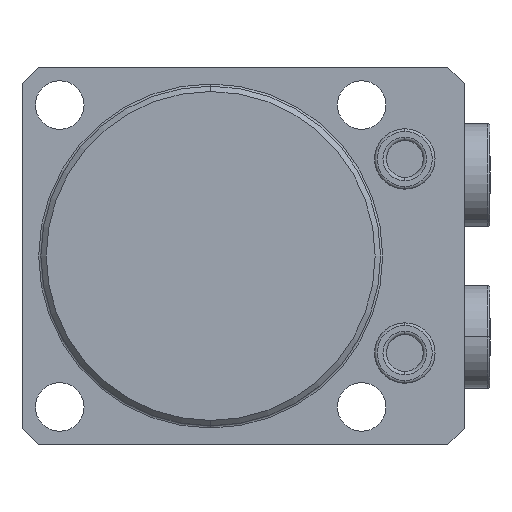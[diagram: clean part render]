
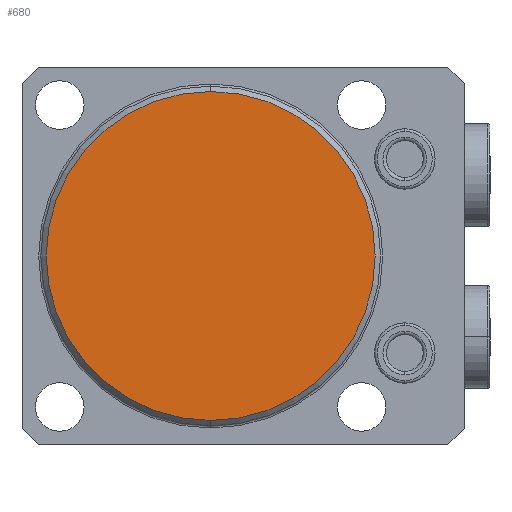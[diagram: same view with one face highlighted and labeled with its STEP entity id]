
A CAD part, front view. The second image highlights one B-rep face of the part: STEP entity #680.
In plain terms, the highlighted planar face has unit normal (0, -1, 0) as drawn and (0, 1, 0) by its records, which use the part's own axes.
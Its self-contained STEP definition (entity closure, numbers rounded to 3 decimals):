
#237=PLANE('',#4870);
#680=ADVANCED_FACE('',(#938),#237,.T.);
#938=FACE_OUTER_BOUND('',#1218,.F.);
#1218=EDGE_LOOP('',(#2833,#2834));
#2833=ORIENTED_EDGE('',*,*,#4049,.T.);
#2834=ORIENTED_EDGE('',*,*,#3955,.T.);
#3409=VERTEX_POINT('',#7424);
#3410=VERTEX_POINT('',#7425);
#3955=EDGE_CURVE('',#3409,#3410,#4356,.T.);
#4049=EDGE_CURVE('',#3410,#3409,#4376,.T.);
#4356=CIRCLE('',#4833,30.5);
#4376=CIRCLE('',#4869,30.5);
#4833=AXIS2_PLACEMENT_3D('',#7423,#6024,#6025);
#4869=AXIS2_PLACEMENT_3D('',#7689,#6146,#6147);
#4870=AXIS2_PLACEMENT_3D('',#7690,#6148,#6149);
#6024=DIRECTION('',(0.,-1.,0.));
#6025=DIRECTION('',(0.,0.,1.));
#6146=DIRECTION('',(0.,-1.,0.));
#6147=DIRECTION('',(0.,0.,1.));
#6148=DIRECTION('',(0.,1.,0.));
#6149=DIRECTION('',(0.,0.,1.));
#7423=CARTESIAN_POINT('',(0.,-47.,0.));
#7424=CARTESIAN_POINT('',(0.,-47.,-30.5));
#7425=CARTESIAN_POINT('',(0.,-47.,30.5));
#7689=CARTESIAN_POINT('',(0.,-47.,0.));
#7690=CARTESIAN_POINT('',(0.,-47.,0.));
